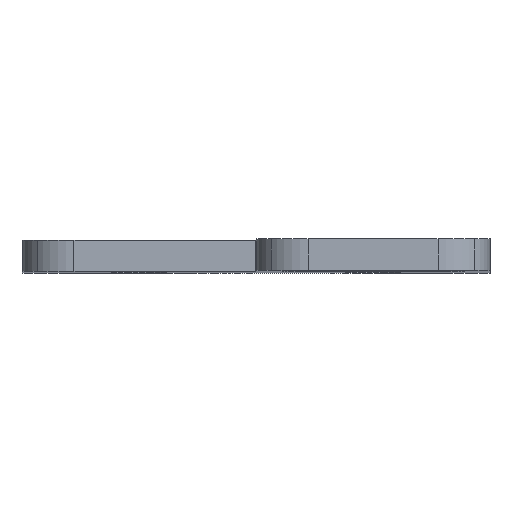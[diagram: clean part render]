
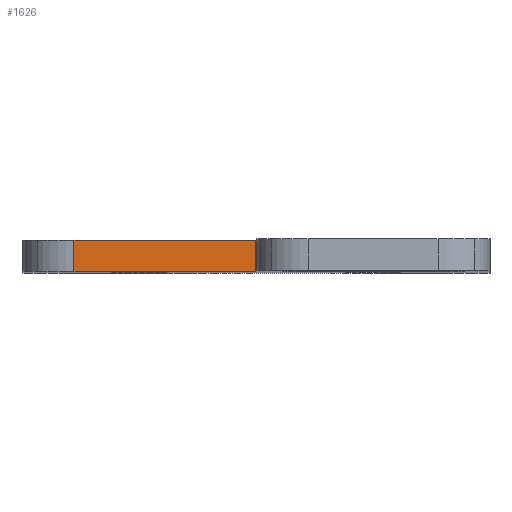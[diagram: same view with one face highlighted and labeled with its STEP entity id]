
A CAD part, top view. The second image highlights one B-rep face of the part: STEP entity #1626.
In plain terms, the highlighted planar face has unit normal (0, 0, 1).
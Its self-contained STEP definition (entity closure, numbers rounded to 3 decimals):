
#83 = ORIENTED_EDGE ( 'NONE', *, *, #1785, .F. ) ;
#123 = DIRECTION ( 'NONE',  ( 0., 1., 0. ) ) ;
#175 = DIRECTION ( 'NONE',  ( 1., 0., 0. ) ) ;
#197 = CARTESIAN_POINT ( 'NONE',  ( 8.804, 0., -1.217 ) ) ;
#217 = CARTESIAN_POINT ( 'NONE',  ( -26.196, 0., -1.217 ) ) ;
#244 = LINE ( 'NONE', #304, #1740 ) ;
#283 = VECTOR ( 'NONE', #123, 1000. ) ;
#304 = CARTESIAN_POINT ( 'NONE',  ( -36.196, 6., -1.217 ) ) ;
#335 = AXIS2_PLACEMENT_3D ( 'NONE', #571, #1590, #1413 ) ;
#344 = EDGE_LOOP ( 'NONE', ( #83, #547, #527, #1192 ) ) ;
#527 = ORIENTED_EDGE ( 'NONE', *, *, #1105, .T. ) ;
#547 = ORIENTED_EDGE ( 'NONE', *, *, #1207, .T. ) ;
#550 = PLANE ( 'NONE',  #335 ) ;
#552 = CARTESIAN_POINT ( 'NONE',  ( 8.804, 0., -1.217 ) ) ;
#571 = CARTESIAN_POINT ( 'NONE',  ( -36.196, 0., -1.217 ) ) ;
#584 = VECTOR ( 'NONE', #175, 1000. ) ;
#690 = VERTEX_POINT ( 'NONE', #217 ) ;
#693 = DIRECTION ( 'NONE',  ( 0., 1., 0. ) ) ;
#900 = DIRECTION ( 'NONE',  ( 1., 0., 0. ) ) ;
#1020 = VERTEX_POINT ( 'NONE', #197 ) ;
#1105 = EDGE_CURVE ( 'NONE', #1020, #1584, #1814, .T. ) ;
#1117 = VERTEX_POINT ( 'NONE', #1176 ) ;
#1133 = EDGE_CURVE ( 'NONE', #1117, #1584, #244, .T. ) ;
#1155 = CARTESIAN_POINT ( 'NONE',  ( 8.804, 6., -1.217 ) ) ;
#1162 = VECTOR ( 'NONE', #693, 1000. ) ;
#1176 = CARTESIAN_POINT ( 'NONE',  ( -26.196, 6., -1.217 ) ) ;
#1192 = ORIENTED_EDGE ( 'NONE', *, *, #1133, .F. ) ;
#1207 = EDGE_CURVE ( 'NONE', #690, #1020, #1450, .T. ) ;
#1413 = DIRECTION ( 'NONE',  ( 1., 0., 0. ) ) ;
#1450 = LINE ( 'NONE', #1511, #584 ) ;
#1452 = CARTESIAN_POINT ( 'NONE',  ( -26.196, 0., -1.217 ) ) ;
#1511 = CARTESIAN_POINT ( 'NONE',  ( -36.196, 0., -1.217 ) ) ;
#1539 = LINE ( 'NONE', #1452, #283 ) ;
#1584 = VERTEX_POINT ( 'NONE', #1155 ) ;
#1590 = DIRECTION ( 'NONE',  ( 0., 0., 1. ) ) ;
#1626 = ADVANCED_FACE ( 'NONE', ( #1784 ), #550, .T. ) ;
#1740 = VECTOR ( 'NONE', #900, 1000. ) ;
#1784 = FACE_OUTER_BOUND ( 'NONE', #344, .T. ) ;
#1785 = EDGE_CURVE ( 'NONE', #690, #1117, #1539, .T. ) ;
#1814 = LINE ( 'NONE', #552, #1162 ) ;
